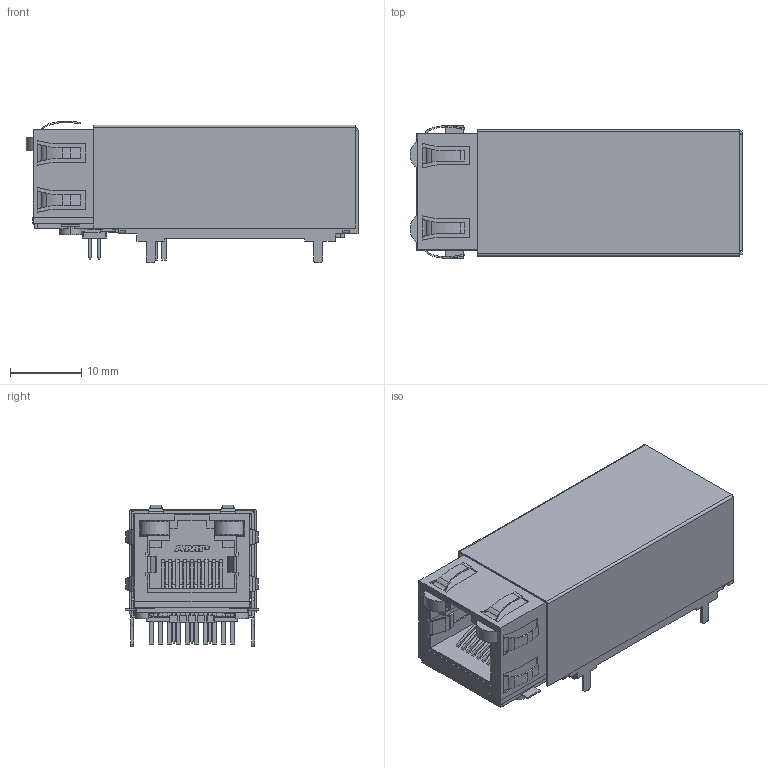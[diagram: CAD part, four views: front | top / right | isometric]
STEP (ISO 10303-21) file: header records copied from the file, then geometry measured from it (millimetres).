
FILE_DESCRIPTION((''),'2;1');
FILE_NAME('C:\Documents and Settings\ryanb\My Documents\Inventor Drawings\Xport Long\Half Metal version\xportar.stp','2005-04-26T09:58:17',('ryanb'),(''),'Autodesk Inventor 9','Autodesk Inventor 9','');
FILE_SCHEMA(('AUTOMOTIVE_DESIGN { 1 0 10303 214 1 1 1 1 }'));
Length unit declared in the file: inch
Products named in the file (120): pcb convert; pcb1; pcb2; pcb3; pcb4; pcb5; pcb6; pcb7; pcb8; pcb9; pcb10; pcb11; pcb12; pcb13; pcb14; pcb15; pcb16; pcb17; pcb18; pcb19; pcb20; pcb21; pcb22; pcb23; pcb24; pcb25; pcb26; pcb27; pcb28; pcb29; pcb30; pcb31; pcb32; pcb33; pcb34; pcb35; pcb36; pcb37; pcb38; pcb39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
Assembly tree (119 placements, depth 2):
  pcb convert
    pcb1
    pcb2
    pcb3
    pcb4
    pcb5
    pcb6
    pcb7
    pcb8
    pcb9
    pcb10
    pcb11
    pcb12
    pcb13
    pcb14
    pcb15
    pcb16
    pcb17
    pcb18
    pcb19
    pcb20
    pcb21
    pcb22
    pcb23
    pcb24
    pcb25
    pcb26
    pcb27
    pcb28
    pcb29
    pcb30
    pcb31
    pcb32
    pcb33
    pcb34
    pcb35
    pcb36
    pcb37
    pcb38
    pcb39
    pcb40
    pcb41
    pcb42
    pcb43
    pcb44
    pcb45
    pcb46
    pcb47
    pcb48
    pcb49
    pcb50
    pcb51
    pcb52
    pcb53
    pcb54
    pcb55
    pcb56
    pcb57
    pcb58
    pcb59
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Bounding box: 46.65 x 18.8 x 19.93 mm (x, y, z)
Volume: 7104 mm3; surface area: 19961.9 mm2
Topology: 121 solids, 121 shells, 2985 faces, 7812 edges, 5180 vertices
Faces by surface type: plane 1423, cylinder 1188, bspline 374
Entity records: 97505 total; most frequent: CARTESIAN_POINT 17610, DIRECTION 15842, ORIENTED_EDGE 15624, EDGE_CURVE 7812, VECTOR 5362, LINE 5362, AXIS2_PLACEMENT_3D 5240, VERTEX_POINT 5180
